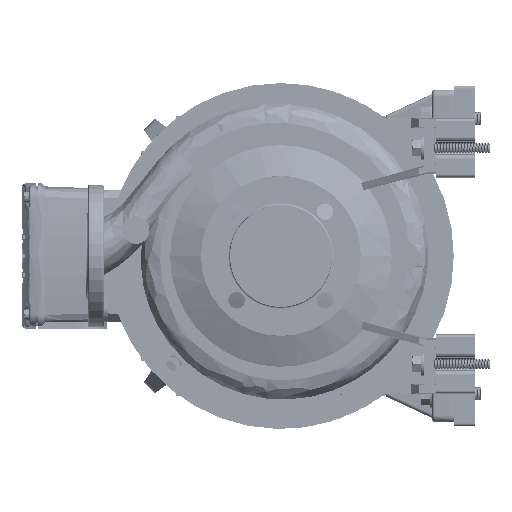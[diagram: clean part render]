
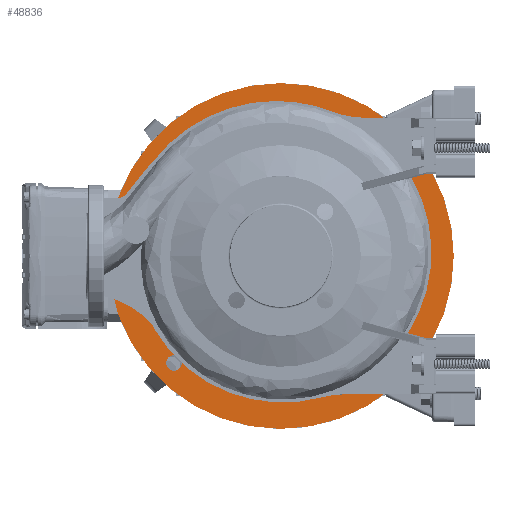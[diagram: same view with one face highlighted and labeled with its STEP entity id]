
A CAD part, left-side view. The second image highlights one B-rep face of the part: STEP entity #48836.
In plain terms, the highlighted planar face has unit normal (-1, 0, 0).
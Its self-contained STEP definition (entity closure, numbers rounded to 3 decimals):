
#249 = EDGE_CURVE ( 'NONE', #236454, #227453, #72372, .T. ) ;
#5511 = CARTESIAN_POINT ( 'NONE',  ( 222.127, 154.329, 493.525 ) ) ;
#10291 = CARTESIAN_POINT ( 'NONE',  ( 222.127, 401.816, 237.038 ) ) ;
#14486 = VERTEX_POINT ( 'NONE', #179297 ) ;
#15022 = EDGE_CURVE ( 'NONE', #227453, #236454, #248961, .T. ) ;
#17552 = CARTESIAN_POINT ( 'NONE',  ( 222.127, 154.329, 246.038 ) ) ;
#17701 = FACE_BOUND ( 'NONE', #266888, .T. ) ;
#19106 = DIRECTION ( 'NONE',  ( 1., 0., 0. ) ) ;
#26320 = DIRECTION ( 'NONE',  ( 1., 0., 0. ) ) ;
#33380 = DIRECTION ( 'NONE',  ( 1., 0., 0. ) ) ;
#48836 = ADVANCED_FACE ( 'NONE', ( #157846, #17701, #60006, #266527, #178991, #268032 ), #295045, .T. ) ;
#49564 = VERTEX_POINT ( 'NONE', #156787 ) ;
#51454 = VERTEX_POINT ( 'NONE', #126871 ) ;
#57282 = CARTESIAN_POINT ( 'NONE',  ( 222.127, 401.816, 246.038 ) ) ;
#60006 = FACE_BOUND ( 'NONE', #268250, .T. ) ;
#61047 = CARTESIAN_POINT ( 'NONE',  ( 222.127, 401.816, 246.038 ) ) ;
#64737 = DIRECTION ( 'NONE',  ( 1., 0., 0. ) ) ;
#72372 = CIRCLE ( 'NONE', #149410, 9. ) ;
#75414 = EDGE_CURVE ( 'NONE', #235555, #83397, #285850, .T. ) ;
#82176 = EDGE_LOOP ( 'NONE', ( #107561, #235691 ) ) ;
#83397 = VERTEX_POINT ( 'NONE', #257232 ) ;
#93848 = EDGE_LOOP ( 'NONE', ( #130238, #256581, #243132, #261736 ) ) ;
#96605 = CIRCLE ( 'NONE', #231301, 152.679 ) ;
#100297 = CIRCLE ( 'NONE', #268821, 152.679 ) ;
#102924 = EDGE_CURVE ( 'NONE', #51454, #246412, #291486, .T. ) ;
#105207 = CARTESIAN_POINT ( 'NONE',  ( 222.127, 154.329, 502.525 ) ) ;
#107561 = ORIENTED_EDGE ( 'NONE', *, *, #75414, .F. ) ;
#108029 = DIRECTION ( 'NONE',  ( 0., 0., 1. ) ) ;
#109440 = DIRECTION ( 'NONE',  ( 1., 0., 0. ) ) ;
#112264 = CIRCLE ( 'NONE', #150822, 9. ) ;
#113204 = DIRECTION ( 'NONE',  ( 0., 0., 1. ) ) ;
#114015 = EDGE_CURVE ( 'NONE', #281174, #286830, #147148, .T. ) ;
#114368 = DIRECTION ( 'NONE',  ( 0., 0., -1. ) ) ;
#121211 = DIRECTION ( 'NONE',  ( 0., 0., -1. ) ) ;
#124415 = DIRECTION ( 'NONE',  ( 0., 0., -1. ) ) ;
#126598 = DIRECTION ( 'NONE',  ( 0., 0., 1. ) ) ;
#126871 = CARTESIAN_POINT ( 'NONE',  ( 222.127, 154.329, 255.038 ) ) ;
#127145 = AXIS2_PLACEMENT_3D ( 'NONE', #182565, #253405, #113204 ) ;
#127912 = CIRCLE ( 'NONE', #156726, 152.679 ) ;
#128874 = DIRECTION ( 'NONE',  ( 1., 0., 0. ) ) ;
#129057 = EDGE_CURVE ( 'NONE', #191338, #282869, #257150, .T. ) ;
#130238 = ORIENTED_EDGE ( 'NONE', *, *, #133687, .T. ) ;
#133687 = EDGE_CURVE ( 'NONE', #14486, #160237, #96605, .T. ) ;
#134827 = DIRECTION ( 'NONE',  ( 0., 0., 1. ) ) ;
#135592 = EDGE_CURVE ( 'NONE', #83397, #235555, #279310, .T. ) ;
#137977 = CIRCLE ( 'NONE', #234184, 9. ) ;
#138167 = CARTESIAN_POINT ( 'NONE',  ( 222.127, 278.073, 169.781 ) ) ;
#139464 = CIRCLE ( 'NONE', #221216, 9. ) ;
#147148 = CIRCLE ( 'NONE', #224195, 9. ) ;
#149410 = AXIS2_PLACEMENT_3D ( 'NONE', #5511, #231716, #213561 ) ;
#150822 = AXIS2_PLACEMENT_3D ( 'NONE', #258486, #26320, #190655 ) ;
#153369 = DIRECTION ( 'NONE',  ( 0., 0., 1. ) ) ;
#153414 = EDGE_LOOP ( 'NONE', ( #223055, #178734 ) ) ;
#154135 = EDGE_CURVE ( 'NONE', #246412, #51454, #139464, .T. ) ;
#156726 = AXIS2_PLACEMENT_3D ( 'NONE', #235807, #252477, #121211 ) ;
#156787 = CARTESIAN_POINT ( 'NONE',  ( 222.127, 278.073, 522.461 ) ) ;
#157635 = CARTESIAN_POINT ( 'NONE',  ( 222.127, 278.073, 369.781 ) ) ;
#157846 = FACE_OUTER_BOUND ( 'NONE', #82176, .T. ) ;
#160223 = DIRECTION ( 'NONE',  ( 1., 0., 0. ) ) ;
#160237 = VERTEX_POINT ( 'NONE', #166493 ) ;
#160320 = EDGE_CURVE ( 'NONE', #282869, #191338, #112264, .T. ) ;
#164633 = ORIENTED_EDGE ( 'NONE', *, *, #249, .T. ) ;
#166185 = AXIS2_PLACEMENT_3D ( 'NONE', #169189, #196340, #191880 ) ;
#166493 = CARTESIAN_POINT ( 'NONE',  ( 222.127, 278.073, 217.102 ) ) ;
#169189 = CARTESIAN_POINT ( 'NONE',  ( 222.127, 154.329, 246.038 ) ) ;
#169647 = EDGE_LOOP ( 'NONE', ( #239084, #164633 ) ) ;
#171580 = CARTESIAN_POINT ( 'NONE',  ( 222.127, 154.329, 484.525 ) ) ;
#175988 = CARTESIAN_POINT ( 'NONE',  ( 222.127, 154.329, 493.525 ) ) ;
#176032 = DIRECTION ( 'NONE',  ( -1., 0., 0. ) ) ;
#178734 = ORIENTED_EDGE ( 'NONE', *, *, #102924, .T. ) ;
#178991 = FACE_BOUND ( 'NONE', #153414, .T. ) ;
#179297 = CARTESIAN_POINT ( 'NONE',  ( 222.127, 126.281, 353.343 ) ) ;
#182565 = CARTESIAN_POINT ( 'NONE',  ( 222.127, 401.816, 493.525 ) ) ;
#190655 = DIRECTION ( 'NONE',  ( 0., 0., 1. ) ) ;
#191338 = VERTEX_POINT ( 'NONE', #208227 ) ;
#191880 = DIRECTION ( 'NONE',  ( 0., 0., 1. ) ) ;
#194391 = CIRCLE ( 'NONE', #247350, 23.5 ) ;
#196340 = DIRECTION ( 'NONE',  ( 1., 0., 0. ) ) ;
#202198 = CARTESIAN_POINT ( 'NONE',  ( 222.127, 126.281, 386.22 ) ) ;
#204376 = DIRECTION ( 'NONE',  ( 0., 0., -1. ) ) ;
#207835 = CARTESIAN_POINT ( 'NONE',  ( 222.127, 278.073, 369.781 ) ) ;
#208227 = CARTESIAN_POINT ( 'NONE',  ( 222.127, 401.816, 484.525 ) ) ;
#213561 = DIRECTION ( 'NONE',  ( 0., 0., 1. ) ) ;
#221216 = AXIS2_PLACEMENT_3D ( 'NONE', #17552, #276394, #108029 ) ;
#222733 = CARTESIAN_POINT ( 'NONE',  ( 222.127, 478.073, 369.781 ) ) ;
#223055 = ORIENTED_EDGE ( 'NONE', *, *, #154135, .T. ) ;
#223229 = AXIS2_PLACEMENT_3D ( 'NONE', #157635, #109440, #204376 ) ;
#224195 = AXIS2_PLACEMENT_3D ( 'NONE', #57282, #241211, #126598 ) ;
#225030 = AXIS2_PLACEMENT_3D ( 'NONE', #175988, #19106, #153369 ) ;
#225063 = CARTESIAN_POINT ( 'NONE',  ( 222.127, 154.329, 237.038 ) ) ;
#227453 = VERTEX_POINT ( 'NONE', #171580 ) ;
#229918 = ORIENTED_EDGE ( 'NONE', *, *, #267991, .T. ) ;
#231301 = AXIS2_PLACEMENT_3D ( 'NONE', #207835, #64737, #114368 ) ;
#231716 = DIRECTION ( 'NONE',  ( 1., 0., 0. ) ) ;
#233553 = ORIENTED_EDGE ( 'NONE', *, *, #160320, .T. ) ;
#234083 = DIRECTION ( 'NONE',  ( 0., 0., -1. ) ) ;
#234184 = AXIS2_PLACEMENT_3D ( 'NONE', #61047, #270562, #134827 ) ;
#235555 = VERTEX_POINT ( 'NONE', #138167 ) ;
#235691 = ORIENTED_EDGE ( 'NONE', *, *, #135592, .F. ) ;
#235807 = CARTESIAN_POINT ( 'NONE',  ( 222.127, 278.073, 369.781 ) ) ;
#236454 = VERTEX_POINT ( 'NONE', #105207 ) ;
#237999 = EDGE_CURVE ( 'NONE', #49564, #274338, #127912, .T. ) ;
#239084 = ORIENTED_EDGE ( 'NONE', *, *, #15022, .T. ) ;
#239958 = CARTESIAN_POINT ( 'NONE',  ( 222.127, 143.074, 369.781 ) ) ;
#241211 = DIRECTION ( 'NONE',  ( 1., 0., 0. ) ) ;
#243132 = ORIENTED_EDGE ( 'NONE', *, *, #237999, .T. ) ;
#243476 = CARTESIAN_POINT ( 'NONE',  ( 222.127, 278.073, 369.781 ) ) ;
#246412 = VERTEX_POINT ( 'NONE', #225063 ) ;
#247350 = AXIS2_PLACEMENT_3D ( 'NONE', #239958, #33380, #288158 ) ;
#248961 = CIRCLE ( 'NONE', #225030, 9. ) ;
#249077 = CARTESIAN_POINT ( 'NONE',  ( 222.127, 401.816, 502.525 ) ) ;
#252477 = DIRECTION ( 'NONE',  ( 1., 0., 0. ) ) ;
#253405 = DIRECTION ( 'NONE',  ( 1., 0., 0. ) ) ;
#256581 = ORIENTED_EDGE ( 'NONE', *, *, #274251, .T. ) ;
#257150 = CIRCLE ( 'NONE', #127145, 9. ) ;
#257232 = CARTESIAN_POINT ( 'NONE',  ( 222.127, 278.073, 569.781 ) ) ;
#258486 = CARTESIAN_POINT ( 'NONE',  ( 222.127, 401.816, 493.525 ) ) ;
#259859 = ORIENTED_EDGE ( 'NONE', *, *, #114015, .T. ) ;
#261736 = ORIENTED_EDGE ( 'NONE', *, *, #263634, .T. ) ;
#261798 = AXIS2_PLACEMENT_3D ( 'NONE', #222733, #176032, #290640 ) ;
#263634 = EDGE_CURVE ( 'NONE', #274338, #14486, #194391, .T. ) ;
#266527 = FACE_BOUND ( 'NONE', #169647, .T. ) ;
#266888 = EDGE_LOOP ( 'NONE', ( #259859, #229918 ) ) ;
#267991 = EDGE_CURVE ( 'NONE', #286830, #281174, #137977, .T. ) ;
#268032 = FACE_BOUND ( 'NONE', #93848, .T. ) ;
#268250 = EDGE_LOOP ( 'NONE', ( #280698, #233553 ) ) ;
#268821 = AXIS2_PLACEMENT_3D ( 'NONE', #277825, #160223, #234083 ) ;
#269858 = AXIS2_PLACEMENT_3D ( 'NONE', #243476, #128874, #124415 ) ;
#270562 = DIRECTION ( 'NONE',  ( 1., 0., 0. ) ) ;
#274251 = EDGE_CURVE ( 'NONE', #160237, #49564, #100297, .T. ) ;
#274338 = VERTEX_POINT ( 'NONE', #202198 ) ;
#276394 = DIRECTION ( 'NONE',  ( 1., 0., 0. ) ) ;
#277825 = CARTESIAN_POINT ( 'NONE',  ( 222.127, 278.073, 369.781 ) ) ;
#279310 = CIRCLE ( 'NONE', #269858, 200. ) ;
#280698 = ORIENTED_EDGE ( 'NONE', *, *, #129057, .T. ) ;
#281174 = VERTEX_POINT ( 'NONE', #10291 ) ;
#282869 = VERTEX_POINT ( 'NONE', #249077 ) ;
#285850 = CIRCLE ( 'NONE', #223229, 200. ) ;
#286830 = VERTEX_POINT ( 'NONE', #289247 ) ;
#288158 = DIRECTION ( 'NONE',  ( 0., 0., 1. ) ) ;
#289247 = CARTESIAN_POINT ( 'NONE',  ( 222.127, 401.816, 255.038 ) ) ;
#290640 = DIRECTION ( 'NONE',  ( 0., 0., 1. ) ) ;
#291486 = CIRCLE ( 'NONE', #166185, 9. ) ;
#295045 = PLANE ( 'NONE',  #261798 ) ;
